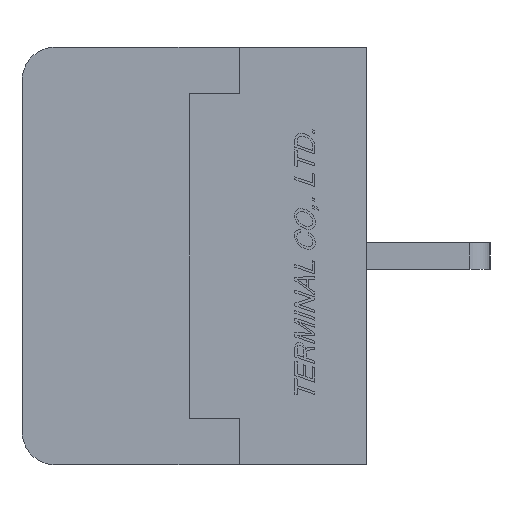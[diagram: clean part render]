
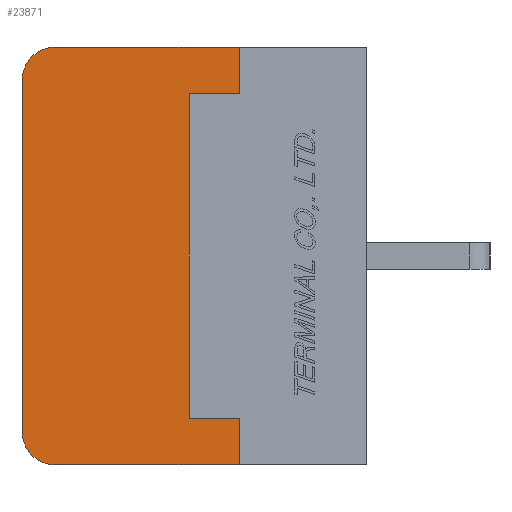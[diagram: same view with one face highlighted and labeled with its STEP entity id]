
A CAD part, left-side view. The second image highlights one B-rep face of the part: STEP entity #23871.
In plain terms, the highlighted planar face has unit normal (-1, 0, 0).
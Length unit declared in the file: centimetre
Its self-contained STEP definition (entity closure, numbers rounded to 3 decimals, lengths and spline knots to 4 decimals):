
#1279=CIRCLE('',#40316,0.1);
#1281=CIRCLE('',#40319,0.1);
#3344=VERTEX_POINT('',#37231);
#3345=VERTEX_POINT('',#37233);
#3347=VERTEX_POINT('',#37239);
#3349=VERTEX_POINT('',#37245);
#3350=VERTEX_POINT('',#37252);
#3351=VERTEX_POINT('',#37253);
#3352=VERTEX_POINT('',#37256);
#3353=VERTEX_POINT('',#37258);
#3354=VERTEX_POINT('',#37260);
#3355=VERTEX_POINT('',#37262);
#5876=VECTOR('',#29480,1.);
#5882=VECTOR('',#29500,1.);
#5883=VECTOR('',#29501,1.);
#5884=VECTOR('',#29502,1.);
#5885=VECTOR('',#29503,1.);
#5886=VECTOR('',#29504,1.);
#5887=VECTOR('',#29505,1.);
#5888=VECTOR('',#29506,1.);
#8476=LINE('',#37232,#5876);
#8482=LINE('',#37251,#5882);
#8483=LINE('',#37254,#5883);
#8484=LINE('',#37255,#5884);
#8485=LINE('',#37257,#5885);
#8486=LINE('',#37259,#5886);
#8487=LINE('',#37261,#5887);
#8488=LINE('',#37263,#5888);
#12000=EDGE_CURVE('',#3344,#3345,#8476,.T.);
#12004=EDGE_CURVE('',#3347,#3344,#1279,.T.);
#12006=EDGE_CURVE('',#3345,#3349,#1281,.T.);
#12010=EDGE_CURVE('',#3350,#3351,#8482,.T.);
#12011=EDGE_CURVE('',#3349,#3350,#8483,.T.);
#12012=EDGE_CURVE('',#3352,#3347,#8484,.T.);
#12013=EDGE_CURVE('',#3353,#3352,#8485,.T.);
#12014=EDGE_CURVE('',#3354,#3353,#8486,.T.);
#12015=EDGE_CURVE('',#3355,#3354,#8487,.T.);
#12016=EDGE_CURVE('',#3351,#3355,#8488,.T.);
#18630=ORIENTED_EDGE('',*,*,#12010,.F.);
#18631=ORIENTED_EDGE('',*,*,#12011,.F.);
#18632=ORIENTED_EDGE('',*,*,#12006,.F.);
#18633=ORIENTED_EDGE('',*,*,#12000,.F.);
#18634=ORIENTED_EDGE('',*,*,#12004,.F.);
#18635=ORIENTED_EDGE('',*,*,#12012,.F.);
#18636=ORIENTED_EDGE('',*,*,#12013,.F.);
#18637=ORIENTED_EDGE('',*,*,#12014,.F.);
#18638=ORIENTED_EDGE('',*,*,#12015,.F.);
#18639=ORIENTED_EDGE('',*,*,#12016,.F.);
#21029=EDGE_LOOP('',(#18630,#18631,#18632,#18633,#18634,#18635,#18636,#18637,
#18638,#18639));
#22495=FACE_BOUND('',#21029,.T.);
#23871=ADVANCED_FACE('',(#22495),#24879,.F.);
#24879=PLANE('',#40321);
#29480=DIRECTION('',(0.,0.,1.));
#29487=DIRECTION('',(1.,0.,0.));
#29488=DIRECTION('',(0.,0.,-0.1));
#29493=DIRECTION('',(1.,0.,0.));
#29494=DIRECTION('',(0.,0.,-0.1));
#29499=DIRECTION('',(1.,0.,0.));
#29500=DIRECTION('',(0.,0.,-1.));
#29501=DIRECTION('',(0.,-1.,0.));
#29502=DIRECTION('',(0.,1.,0.));
#29503=DIRECTION('',(0.,0.,-1.));
#29504=DIRECTION('',(0.,-1.,0.));
#29505=DIRECTION('',(0.,0.,-1.));
#29506=DIRECTION('',(0.,1.,0.));
#37231=CARTESIAN_POINT('',(-0.762,1.03,-0.525));
#37232=CARTESIAN_POINT('',(-0.762,1.03,-0.525));
#37233=CARTESIAN_POINT('',(-0.762,1.03,0.525));
#37239=CARTESIAN_POINT('',(-0.762,0.93,-0.625));
#37240=CARTESIAN_POINT('',(-0.762,0.93,-0.525));
#37244=CARTESIAN_POINT('',(-0.762,0.93,0.525));
#37245=CARTESIAN_POINT('',(-0.762,0.93,0.625));
#37250=CARTESIAN_POINT('',(-0.762,0.5047,0.));
#37251=CARTESIAN_POINT('',(-0.762,0.38,0.625));
#37252=CARTESIAN_POINT('',(-0.762,0.38,0.625));
#37253=CARTESIAN_POINT('',(-0.762,0.38,0.485));
#37254=CARTESIAN_POINT('',(-0.762,0.93,0.625));
#37255=CARTESIAN_POINT('',(-0.762,0.,-0.625));
#37256=CARTESIAN_POINT('',(-0.762,0.38,-0.625));
#37257=CARTESIAN_POINT('',(-0.762,0.38,-0.485));
#37258=CARTESIAN_POINT('',(-0.762,0.38,-0.485));
#37259=CARTESIAN_POINT('',(-0.762,0.53,-0.485));
#37260=CARTESIAN_POINT('',(-0.762,0.53,-0.485));
#37261=CARTESIAN_POINT('',(-0.762,0.53,0.485));
#37262=CARTESIAN_POINT('',(-0.762,0.53,0.485));
#37263=CARTESIAN_POINT('',(-0.762,0.38,0.485));
#40316=AXIS2_PLACEMENT_3D('',#37240,#29487,#29488);
#40319=AXIS2_PLACEMENT_3D('',#37244,#29493,#29494);
#40321=AXIS2_PLACEMENT_3D('',#37250,#29499,$);
